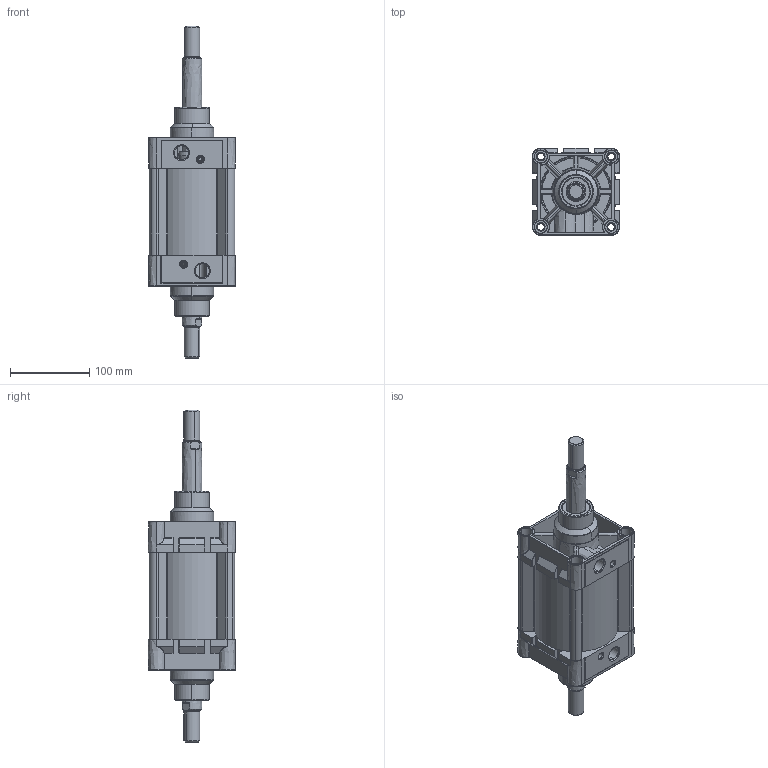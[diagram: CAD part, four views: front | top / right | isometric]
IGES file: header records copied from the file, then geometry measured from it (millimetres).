
Start section: SolidWorks IGES file using analytic representation for surfaces
Global section: file name: D:\ARICA 3D 禽Z軲LER\3D IGES\MDNC 禽FT M軱L輁MDNC100\MDNC100X50CIFTMILLI-CYLINDER.IGS; native system: SolidWorks 2013; preprocessor: SolidWorks 2013; author: user; date: 150326.095710; units: millimetre
Bounding box: 110.06 x 110.35 x 420 mm (x, y, z)
Surface area: 389289.4 mm2 (no closed solid volume)
Topology: 0 solids, 0 shells, 1104 faces, 18658 edges, 18646 vertices
Faces by surface type: revolution 639, bspline 465
